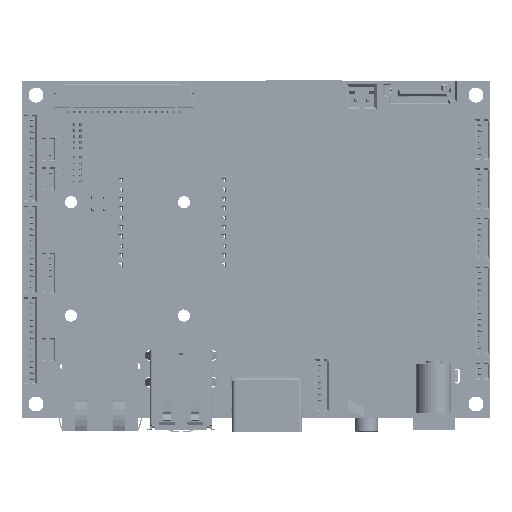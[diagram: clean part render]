
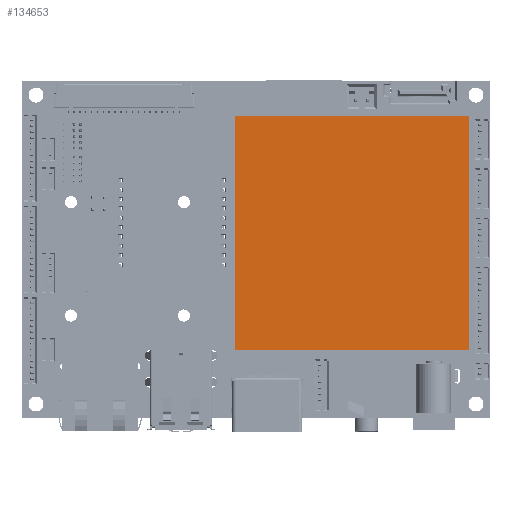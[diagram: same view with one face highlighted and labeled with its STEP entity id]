
A CAD part, top view. The second image highlights one B-rep face of the part: STEP entity #134653.
In plain terms, the highlighted planar face has unit normal (0, 0, 1).
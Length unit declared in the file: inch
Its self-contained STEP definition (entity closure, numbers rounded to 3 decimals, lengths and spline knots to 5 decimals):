
#330 = CARTESIAN_POINT ( 'NONE',  ( -0.98425, -0.98425, 0.22047 ) ) ;
#15565 = ORIENTED_EDGE ( 'NONE', *, *, #262613, .F. ) ;
#40650 = DIRECTION ( 'NONE',  ( -1., 0., 0. ) ) ;
#41204 = EDGE_CURVE ( 'NONE', #163213, #213744, #185938, .T. ) ;
#42120 = VERTEX_POINT ( 'NONE', #309427 ) ;
#42602 = CARTESIAN_POINT ( 'NONE',  ( 0.98425, -0.98425, 0.22047 ) ) ;
#56952 = CARTESIAN_POINT ( 'NONE',  ( -0.98425, -0.98425, 0.22047 ) ) ;
#68716 = AXIS2_PLACEMENT_3D ( 'NONE', #293284, #293198, #292796 ) ;
#69723 = ORIENTED_EDGE ( 'NONE', *, *, #189049, .F. ) ;
#72597 = DIRECTION ( 'NONE',  ( 1., 0., 0. ) ) ;
#75012 = CARTESIAN_POINT ( 'NONE',  ( -0.98425, 0.98425, 0.22047 ) ) ;
#87113 = ORIENTED_EDGE ( 'NONE', *, *, #41204, .F. ) ;
#87330 = DIRECTION ( 'NONE',  ( 0., 1., 0. ) ) ;
#89724 = LINE ( 'NONE', #42602, #276157 ) ;
#118366 = VERTEX_POINT ( 'NONE', #56952 ) ;
#124608 = ORIENTED_EDGE ( 'NONE', *, *, #247955, .F. ) ;
#134653 = ADVANCED_FACE ( 'NONE', ( #179038 ), #295712, .T. ) ;
#157093 = VECTOR ( 'NONE', #236976, 39.37008 ) ;
#163213 = VERTEX_POINT ( 'NONE', #171861 ) ;
#165783 = LINE ( 'NONE', #235773, #157093 ) ;
#171861 = CARTESIAN_POINT ( 'NONE',  ( -0.98425, 0.98425, 0.22047 ) ) ;
#173724 = EDGE_LOOP ( 'NONE', ( #87113, #69723, #124608, #15565 ) ) ;
#179038 = FACE_OUTER_BOUND ( 'NONE', #173724, .T. ) ;
#185938 = LINE ( 'NONE', #75012, #193654 ) ;
#189049 = EDGE_CURVE ( 'NONE', #118366, #163213, #327959, .T. ) ;
#193654 = VECTOR ( 'NONE', #72597, 39.37008 ) ;
#213744 = VERTEX_POINT ( 'NONE', #300813 ) ;
#235773 = CARTESIAN_POINT ( 'NONE',  ( 0.98425, 0.98425, 0.22047 ) ) ;
#236976 = DIRECTION ( 'NONE',  ( 0., -1., 0. ) ) ;
#246211 = VECTOR ( 'NONE', #87330, 39.37008 ) ;
#247955 = EDGE_CURVE ( 'NONE', #42120, #118366, #89724, .T. ) ;
#262613 = EDGE_CURVE ( 'NONE', #213744, #42120, #165783, .T. ) ;
#276157 = VECTOR ( 'NONE', #40650, 39.37008 ) ;
#292796 = DIRECTION ( 'NONE',  ( 1., 0., 0. ) ) ;
#293198 = DIRECTION ( 'NONE',  ( 0., 0., 1. ) ) ;
#293284 = CARTESIAN_POINT ( 'NONE',  ( -0.98425, -0.98425, 0.22047 ) ) ;
#295712 = PLANE ( 'NONE',  #68716 ) ;
#300813 = CARTESIAN_POINT ( 'NONE',  ( 0.98425, 0.98425, 0.22047 ) ) ;
#309427 = CARTESIAN_POINT ( 'NONE',  ( 0.98425, -0.98425, 0.22047 ) ) ;
#327959 = LINE ( 'NONE', #330, #246211 ) ;
